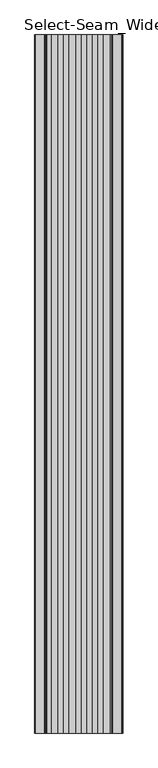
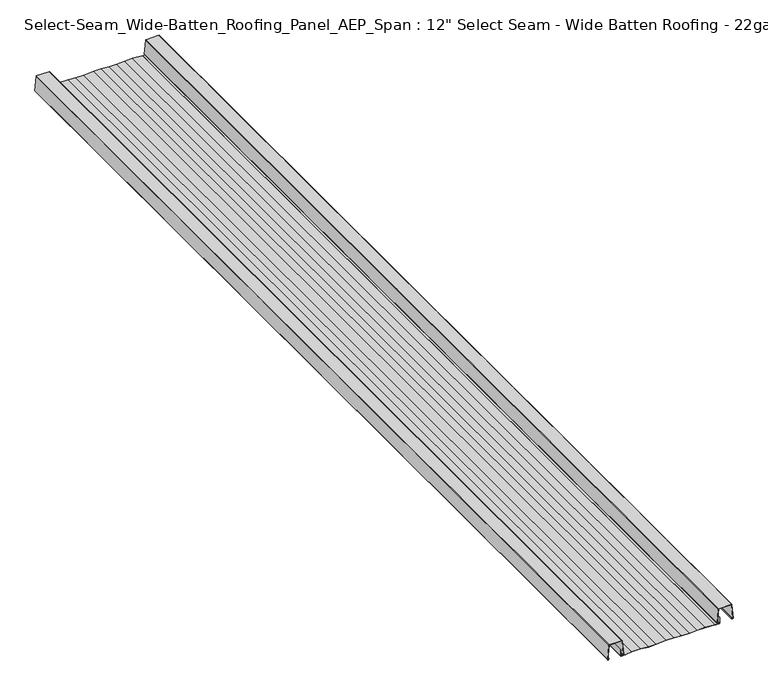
"""IFC4 building model written with IfcOpenShell, lengths in millimetres: proxy geometry."""

from ifc_helpers import new_model, si_unit, point, frame, frame_2d, origin, place, context, project, spatial, polyline, circle_curve, trimmed, segment, composite_curve, outline, extrude, source, transform, mapped, element, save
from ifc_brep_helpers import plane_surface, cylinder_surface, revolved_surface, advanced_brep


def proxy_2cd85a49(model_context):
    return source(origin(), model_context, "Body", "SolidModel", [
        extrude(outline(composite_curve([segment(polyline([(0.0, 144.0825265), (0.0, 156.4089983)]), True, "CONTINUOUS"), segment(trimmed(circle_curve(frame_2d((1.8096799, 156.4089983)), 1.8096799), [point((0.0, 156.4089983))], [point((1.8096799, 158.2186782))], False, "CARTESIAN"), True, "CONTINUOUS"), segment(polyline([(1.8096799, 158.2186782), (20.7458894, 158.2186782), (20.7458894, 157.4363582), (1.8096799, 157.4363582)]), True, "CONTINUOUS"), segment(trimmed(circle_curve(frame_2d((1.8096799, 156.4204283)), 1.0159299), [point((1.8096799, 157.4363582))], [point((0.79375, 156.4204283))], True, "CARTESIAN"), True, "CONTINUOUS"), segment(polyline([(0.79375, 156.4204283), (0.79375, 144.0825265), (0.0, 144.0825265)]), True, "CONTINUOUS")], self_intersect=False)), frame((0.0, -3048.0, 0.0), z_axis=(0.0, 1.0, 0.0), x_axis=(0.0, 0.0, 1.0)), (0.0, 0.0, 1.0), 3048.0),
        extrude(outline(polyline([(0.0, -132.4451702), (2.0434874, -112.7643407), (2.0434874, -84.8610195), (0.0, -61.0689441), (0.0, -37.2768688), (2.0434874, -6.0773595), (2.0434874, 17.7147158), (0.0, 41.5067912), (0.0, 65.2988665), (2.0434874, 89.0909419), (2.0434874, 112.8830172), (0.0, 144.0825265), (0.78232, 144.0825265), (2.7902474, 112.9150277), (2.7902474, 89.0589314), (0.74676, 65.2668561), (0.74676, 41.5388016), (2.7902474, 17.7467263), (2.7902474, -6.10937), (0.74676, -37.3088793), (0.74676, -61.0369337), (2.7902474, -84.829009), (2.7902474, -112.8030053), (0.78232, -132.4451702), (0.0, -132.4451702)])), frame((0.0, -3048.0, 0.0), z_axis=(0.0, 1.0, 0.0), x_axis=(0.0, 0.0, 1.0)), (0.0, 0.0, 1.0), 3048.0),
        extrude(outline(composite_curve([segment(trimmed(circle_curve(frame_2d((2.9867257, -139.6239435)), 1.5958376), [point((1.679492, -140.5392783))], [point((3.1119337, -138.0330253))], False, "CARTESIAN"), True, "CONTINUOUS"), segment(polyline([(3.1119337, -138.0330253), (48.1630451, -141.5786246)]), True, "CONTINUOUS"), segment(trimmed(circle_curve(frame_2d((48.0691392, -142.7718133)), 1.1968782), [point((48.1630451, -141.5786246))], [point((49.2660174, -142.7718133))], False, "CARTESIAN"), True, "CONTINUOUS"), segment(polyline([(49.2660174, -142.7718133), (49.2660174, -182.0508263)]), True, "CONTINUOUS"), segment(trimmed(circle_curve(frame_2d((48.0691392, -182.0508263)), 1.1968782), [point((49.2660174, -182.0508263))], [point((48.1630451, -183.244015))], False, "CARTESIAN"), True, "CONTINUOUS"), segment(polyline([(48.1630451, -183.244015), (3.1119337, -186.7896144)]), True, "CONTINUOUS"), segment(trimmed(circle_curve(frame_2d((2.9867257, -185.1986962)), 1.5958376), [point((3.1119337, -186.7896144))], [point((1.679492, -184.2833613))], False, "CARTESIAN"), True, "CONTINUOUS"), segment(polyline([(1.679492, -184.2833613), (3.6192921, -181.5130396), (4.2606393, -181.9621158), (2.2340548, -184.7932998)]), True, "CONTINUOUS"), segment(trimmed(circle_curve(frame_2d((2.8910866, -185.2533584)), 0.8020876), [point((2.2340548, -184.7932998))], [point((2.9540176, -186.0529735))], True, "CARTESIAN"), True, "CONTINUOUS"), segment(polyline([(2.9540176, -186.0529735), (48.5192574, -182.4669114), (48.5192574, -142.3557283), (3.0147274, -138.7744441)]), True, "CONTINUOUS"), segment(trimmed(circle_curve(frame_2d((2.9517963, -139.5740592)), 0.8020876), [point((3.0147274, -138.7744441))], [point((2.2947646, -140.0341178))], True, "CARTESIAN"), True, "CONTINUOUS"), segment(polyline([(2.2947646, -140.0341178), (4.2904637, -142.8396406), (3.6192921, -143.3096), (1.679492, -140.5392783)]), True, "CONTINUOUS")], self_intersect=False)), frame((0.0, -3048.0, 0.0), z_axis=(0.0, 1.0, 0.0), x_axis=(0.0, 0.0, 1.0)), (0.0, 0.0, 1.0), 3048.0),
        advanced_brep(
        [(196.1774745, -3048.0, 1.679492), (198.6837276, -3048.0, 3.1119337), (195.1381283, -3048.0, 48.1630451), (193.9449396, -3048.0, 49.2660174), (154.6659266, -3048.0, 49.2660174), (153.4727379, -3048.0, 48.1630451), (149.9271385, -3048.0, 3.1119337), (152.4333916, -3048.0, 1.679492), (155.2037133, -3048.0, 3.6192921), (154.7487948, -3048.0, 4.2689831), (152.0145099, -3048.0, 2.2980083), (150.6744428, -3048.0, 3.0531195), (154.2498415, -3048.0, 48.5192574), (194.3610246, -3048.0, 48.5192574), (197.9320399, -3048.0, 3.1452062), (196.4543096, -3048.0, 2.3972757), (193.8582739, -3048.0, 4.2635596), (193.4071529, -3048.0, 3.6192921), (196.1774745, 0.0, 1.679492), (193.4071529, 0.0, 3.6192921), (193.8582739, 0.0, 4.2635596), (196.4543096, 0.0, 2.3972757), (197.9320399, 0.0, 3.1452062), (194.3610246, 0.0, 48.5192574), (154.2498415, 0.0, 48.5192574), (150.6715965, 0.0, 3.0533436), (152.0128871, 0.0, 2.3002597), (154.7487948, 0.0, 4.2689831), (155.2037133, 0.0, 3.6192921), (152.4333916, 0.0, 1.679492), (149.9271385, 0.0, 3.1119337), (153.4727379, 0.0, 48.1630451), (154.6659266, 0.0, 49.2660174), (193.9449396, 0.0, 49.2660174), (195.1381283, 0.0, 48.1630451), (198.6837276, 0.0, 3.1119337)],
        [
            (0, 1, circle_curve(frame((197.0928094, -3048.0, 2.9867257), z_axis=(0.0, -1.0, 0.0), x_axis=(1.0, 0.0, 0.0)), 1.5958376)),
            (1, 2),
            (2, 3, circle_curve(frame((193.9449396, -3048.0, 48.0691392), z_axis=(0.0, -1.0, 0.0), x_axis=(1.0, 0.0, 0.0)), 1.1968782)),
            (3, 4),
            (4, 5, circle_curve(frame((154.6659266, -3048.0, 48.0691392), z_axis=(0.0, -1.0, 0.0), x_axis=(1.0, 0.0, 0.0)), 1.1968782)),
            (5, 6),
            (6, 7, circle_curve(frame((151.5180567, -3048.0, 2.9867257), z_axis=(0.0, -1.0, 0.0), x_axis=(1.0, 0.0, 0.0)), 1.5958376)),
            (7, 8),
            (8, 9),
            (9, 10),
            (10, 11, circle_curve(frame((151.5180567, -3048.0, 2.9867257), z_axis=(0.0, 1.0, 0.0), x_axis=(1.0, 0.0, 0.0)), 0.8462226)),
            (11, 12),
            (12, 13),
            (13, 14),
            (14, 15, circle_curve(frame((197.039453, -3048.0, 3.0749581), z_axis=(0.0, 1.0, 0.0), x_axis=(1.0, 0.0, 0.0)), 0.895347)),
            (15, 16),
            (16, 17),
            (17, 0),
            (18, 19),
            (19, 20),
            (20, 21),
            (21, 22, circle_curve(frame((197.039453, 0.0, 3.0749581), z_axis=(0.0, -1.0, 0.0), x_axis=(1.0, 0.0, 0.0)), 0.895347)),
            (22, 23),
            (23, 24),
            (24, 25),
            (25, 26, circle_curve(frame((151.5180567, 0.0, 2.9867257), z_axis=(0.0, -1.0, 0.0), x_axis=(1.0, 0.0, 0.0)), 0.8462226)),
            (26, 27),
            (27, 28),
            (28, 29),
            (29, 30, circle_curve(frame((151.5180567, 0.0, 2.9867257), z_axis=(0.0, 1.0, 0.0), x_axis=(1.0, 0.0, 0.0)), 1.5958376)),
            (30, 31),
            (31, 32, circle_curve(frame((154.6659266, 0.0, 48.0691392), z_axis=(0.0, 1.0, 0.0), x_axis=(1.0, 0.0, 0.0)), 1.1968782)),
            (32, 33),
            (33, 34, circle_curve(frame((193.9449396, 0.0, 48.0691392), z_axis=(0.0, 1.0, 0.0), x_axis=(1.0, 0.0, 0.0)), 1.1968782)),
            (34, 35),
            (35, 18, circle_curve(frame((197.0928094, 0.0, 2.9867257), z_axis=(0.0, 1.0, 0.0), x_axis=(1.0, 0.0, 0.0)), 1.5958376)),
            (0, 18),
            (35, 1),
            (34, 2),
            (33, 3),
            (32, 4),
            (31, 5),
            (30, 6),
            (29, 7),
            (28, 8),
            (11, 25),
            (24, 12),
            (23, 13),
            (22, 14),
            (21, 15),
            (17, 19),
            (27, 9),
            (26, 10),
            (20, 16),
        ],
        [
            plane_surface(frame((198.6886471, -3048.0, 2.9867257), z_axis=(0.0, -1.0, 0.0), x_axis=(0.0, 0.0, 1.0))),
            plane_surface(frame((198.6886471, 0.0, 2.9867257), z_axis=(0.0, 1.0, 0.0), x_axis=(0.0, 0.0, -1.0))),
            cylinder_surface(frame((197.0928094, 0.0, 2.9867257), z_axis=(0.0, -1.0, 0.0), x_axis=(1.0, 0.0, 0.0)), 1.5958376),
            plane_surface(frame((198.6837276, -3048.0, 3.1119337), z_axis=(0.9969173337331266, 0.0, 0.07845909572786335), x_axis=(0.0, 1.0, 0.0))),
            cylinder_surface(frame((193.9449396, 0.0, 48.0691392), z_axis=(0.0, -1.0, 0.0), x_axis=(1.0, 0.0, 0.0)), 1.1968782),
            plane_surface(frame((193.9449396, -3048.0, 49.2660174), z_axis=(0.0, 0.0, 1.0), x_axis=(0.0, 1.0, 0.0))),
            cylinder_surface(frame((154.6659266, 0.0, 48.0691392), z_axis=(0.0, -1.0, 0.0), x_axis=(1.0, 0.0, 0.0)), 1.1968782),
            plane_surface(frame((153.4727379, -3048.0, 48.1630451), z_axis=(-0.9969173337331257, 0.0, 0.07845909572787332), x_axis=(0.0, 1.0, 0.0))),
            cylinder_surface(frame((151.5180567, 0.0, 2.9867257), z_axis=(0.0, -1.0, 0.0), x_axis=(1.0, 0.0, 0.0)), 1.5958376),
            plane_surface(frame((152.4333916, -3048.0, 1.679492), z_axis=(0.5735764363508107, 0.0, -0.8191520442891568), x_axis=(0.0, 1.0, 0.0))),
            plane_surface(frame((150.6715965, -3048.0, 3.0533436), z_axis=(0.9969173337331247, 0.0, -0.07845909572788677), x_axis=(0.0, 1.0, 0.0))),
            plane_surface(frame((154.2498415, -3048.0, 48.5192574), z_axis=(0.0, 0.0, -1.0), x_axis=(0.0, 1.0, 0.0))),
            plane_surface(frame((194.3610246, -3048.0, 48.5192574), z_axis=(-0.9969173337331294, 0.0, -0.07845909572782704), x_axis=(0.0, 1.0, 0.0))),
            revolved_surface(polyline([(197.9348, 0.0, 3.0749581), (197.9348, -3048.0, 3.0749581)]), (197.039453, 0.0, 3.0749581), (0.0, 1.0, 0.0)),
            plane_surface(frame((193.4071529, -3048.0, 3.6192921), z_axis=(-0.5735764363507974, 0.0, -0.8191520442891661), x_axis=(0.0, 1.0, 0.0))),
            plane_surface(frame((155.2037133, -3048.0, 3.6192921), z_axis=(0.8191520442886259, 0.0, 0.5735764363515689), x_axis=(0.0, 1.0, 0.0))),
            plane_surface(frame((154.7487948, -3048.0, 4.2689831), z_axis=(-0.5847520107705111, 0.0, 0.811212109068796), x_axis=(0.0, 1.0, 0.0))),
            revolved_surface(polyline([(152.3642793, 0.0, 2.9867257), (152.3642793, -3048.0, 2.9867257)]), (151.5180567, 0.0, 2.9867257), (0.0, 1.0, 0.0)),
            plane_surface(frame((196.4543096, -3048.0, 2.3972757), z_axis=(0.5837150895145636, 0.0, 0.811958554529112), x_axis=(0.0, 1.0, 0.0))),
            plane_surface(frame((193.8582739, -3048.0, 4.2635596), z_axis=(-0.8191520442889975, 0.0, 0.5735764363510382), x_axis=(0.0, 1.0, 0.0))),
        ],
        [
            (0, [[1, 2, 3, 4, 5, 6, 7, 8, 9, 10, 11, 12, 13, 14, 15, 16, 17, 18]]),
            (1, [[19, 20, 21, 22, 23, 24, 25, 26, 27, 28, 29, 30, 31, 32, 33, 34, 35, 36]]),
            (2, [[-1, 37, -36, 38]]),
            (3, [[-2, -38, -35, 39]]),
            (4, [[-3, -39, -34, 40]]),
            (5, [[-4, -40, -33, 41]]),
            (6, [[-5, -41, -32, 42]]),
            (7, [[-6, -42, -31, 43]]),
            (8, [[-7, -43, -30, 44]]),
            (9, [[-8, -44, -29, 45]]),
            (10, [[-12, 46, -25, 47]]),
            (11, [[-13, -47, -24, 48]]),
            (12, [[-14, -48, -23, 49]]),
            (13, [[-15, -49, -22, 50]]),
            (14, [[-18, 51, -19, -37]]),
            (15, [[-9, -45, -28, 52]]),
            (16, [[-10, -52, -27, 53]]),
            (17, [[-11, -53, -26, -46]]),
            (18, [[-16, -50, -21, 54]]),
            (19, [[-17, -54, -20, -51]]),
        ],
    ),
        extrude(outline(composite_curve([segment(polyline([(20.7458894, -146.5813218), (0.9605486, -146.5813218)]), True, "CONTINUOUS"), segment(trimmed(circle_curve(frame_2d((0.9605486, -145.6207733)), 0.9605486), [point((0.9605486, -146.5813218))], [point((0.0, -145.6207733))], False, "CARTESIAN"), True, "CONTINUOUS"), segment(polyline([(0.0, -145.6207733), (0.0, -132.4451702), (0.78232, -132.4451702), (0.78232, -145.7989922), (20.7458894, -145.7989922), (20.7458894, -146.5813218)]), True, "CONTINUOUS")], self_intersect=False)), frame((0.0, -3048.0, 0.0), z_axis=(0.0, 1.0, 0.0), x_axis=(0.0, 0.0, 1.0)), (0.0, 0.0, 1.0), 3048.0),
    ])


if __name__ == "__main__":
    model = new_model("IFC4")
    model_context = context("Model", 3, world=origin())
    ifc_project = project(units=[si_unit("LENGTHUNIT", "METRE", prefix="MILLI")], contexts=[model_context])
    site = spatial("IfcSite", under=ifc_project)
    building = spatial("IfcBuilding", under=site)
    placement = place(None, origin())
    proxy_shape = proxy_2cd85a49(model_context)
    element("IfcBuildingElementProxy", 1, Name="Select-Seam_Wide-Batten_Roofing_Panel_AEP_Span : 12\" Select Seam - Wide Batten Roofing - 22ga", ObjectType="Select-Seam_Wide-Batten_Roofing_Panel_AEP_Span : 12\" Select Seam - Wide Batten Roofing - 22ga", at=placement, inside=building, context=model_context, shape_type="MappedRepresentation", body=[
        mapped(proxy_shape, transform((0.0, 0.0, 0.0), x_axis=(1.0, 0.0, 0.0), y_axis=(0.0, 1.0, 0.0), z_axis=(0.0, 0.0, 1.0))),
    ])
    save(model, "model.ifc")
